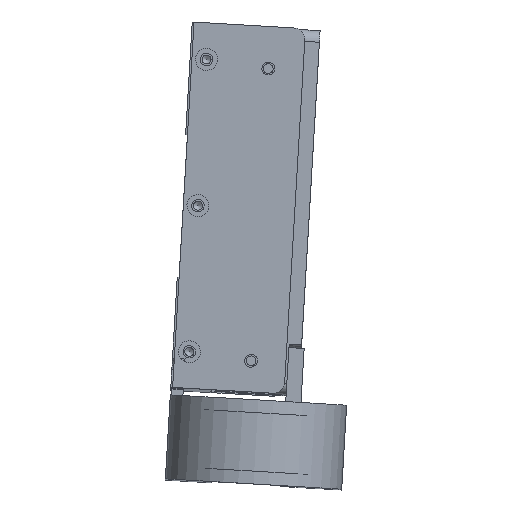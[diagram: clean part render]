
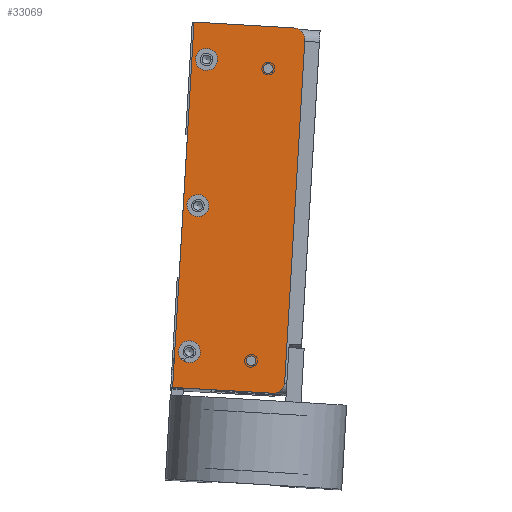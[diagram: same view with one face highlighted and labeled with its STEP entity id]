
A CAD part, top view. The second image highlights one B-rep face of the part: STEP entity #33069.
In plain terms, the highlighted planar face has unit normal (0, 0, 1) as drawn and (0, -1, 0) by its records, which use the part's own axes.
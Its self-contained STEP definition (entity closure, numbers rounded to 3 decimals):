
#1001=PLANE($,#36082);
#2196=FACE_BOUND($,#6015,.T.);
#2197=FACE_BOUND($,#6016,.T.);
#2198=FACE_BOUND($,#6017,.T.);
#2199=FACE_BOUND($,#6018,.T.);
#2200=FACE_BOUND($,#6019,.T.);
#2201=FACE_BOUND($,#6020,.T.);
#6015=EDGE_LOOP($,(#26760));
#6016=EDGE_LOOP($,(#26761));
#6017=EDGE_LOOP($,(#26762));
#6018=EDGE_LOOP($,(#26763));
#6019=EDGE_LOOP($,(#26764));
#6020=EDGE_LOOP($,(#26765,#26766,#26767,#26768,#26769,#26770));
#8421=LINE($,#53275,#11252);
#8424=LINE($,#53291,#11255);
#8425=LINE($,#53293,#11256);
#8426=LINE($,#53295,#11257);
#11252=VECTOR($,#42764,93.65);
#11255=VECTOR($,#42779,27.325);
#11256=VECTOR($,#42780,100.);
#11257=VECTOR($,#42781,27.325);
#14045=CIRCLE($,#36079,3.175);
#14047=CIRCLE($,#36083,3.);
#14048=CIRCLE($,#36084,3.);
#14049=CIRCLE($,#36085,3.);
#14050=CIRCLE($,#36086,1.321);
#14051=CIRCLE($,#36087,1.321);
#14052=CIRCLE($,#36088,3.175);
#16108=VERTEX_POINT($,#53265);
#16109=VERTEX_POINT($,#53266);
#16112=VERTEX_POINT($,#53274);
#16114=VERTEX_POINT($,#53280);
#16115=VERTEX_POINT($,#53282);
#16116=VERTEX_POINT($,#53284);
#16117=VERTEX_POINT($,#53286);
#16118=VERTEX_POINT($,#53288);
#16119=VERTEX_POINT($,#53290);
#16120=VERTEX_POINT($,#53292);
#16121=VERTEX_POINT($,#53294);
#19963=EDGE_CURVE($,#16108,#16109,#14045,.T.);
#19967=EDGE_CURVE($,#16109,#16112,#8421,.T.);
#19970=EDGE_CURVE($,#16114,#16114,#14047,.T.);
#19971=EDGE_CURVE($,#16115,#16115,#14048,.T.);
#19972=EDGE_CURVE($,#16116,#16116,#14049,.T.);
#19973=EDGE_CURVE($,#16117,#16117,#14050,.T.);
#19974=EDGE_CURVE($,#16118,#16118,#14051,.T.);
#19975=EDGE_CURVE($,#16108,#16119,#8424,.T.);
#19976=EDGE_CURVE($,#16119,#16120,#8425,.T.);
#19977=EDGE_CURVE($,#16120,#16121,#8426,.T.);
#19978=EDGE_CURVE($,#16112,#16121,#14052,.T.);
#26760=ORIENTED_EDGE($,*,*,#19970,.T.);
#26761=ORIENTED_EDGE($,*,*,#19971,.T.);
#26762=ORIENTED_EDGE($,*,*,#19972,.T.);
#26763=ORIENTED_EDGE($,*,*,#19973,.T.);
#26764=ORIENTED_EDGE($,*,*,#19974,.T.);
#26765=ORIENTED_EDGE($,*,*,#19963,.F.);
#26766=ORIENTED_EDGE($,*,*,#19975,.T.);
#26767=ORIENTED_EDGE($,*,*,#19976,.T.);
#26768=ORIENTED_EDGE($,*,*,#19977,.T.);
#26769=ORIENTED_EDGE($,*,*,#19978,.F.);
#26770=ORIENTED_EDGE($,*,*,#19967,.F.);
#33069=ADVANCED_FACE($,(#2196,#2197,#2198,#2199,#2200,#2201),#1001,.T.);
#36079=AXIS2_PLACEMENT_3D($,#53267,#42756,#42757);
#36082=AXIS2_PLACEMENT_3D($,#53279,#42767,#42768);
#36083=AXIS2_PLACEMENT_3D($,#53281,#42769,#42770);
#36084=AXIS2_PLACEMENT_3D($,#53283,#42771,#42772);
#36085=AXIS2_PLACEMENT_3D($,#53285,#42773,#42774);
#36086=AXIS2_PLACEMENT_3D($,#53287,#42775,#42776);
#36087=AXIS2_PLACEMENT_3D($,#53289,#42777,#42778);
#36088=AXIS2_PLACEMENT_3D($,#53296,#42782,#42783);
#42756=DIRECTION('center_axis',(0.,1.,0.));
#42757=DIRECTION('ref_axis',(0.707,0.,0.707));
#42764=DIRECTION($,(0.,0.,-1.));
#42767=DIRECTION('center_axis',(0.,-1.,0.));
#42768=DIRECTION('ref_axis',(0.,0.,-1.));
#42769=DIRECTION('center_axis',(0.,1.,0.));
#42770=DIRECTION('ref_axis',(1.,0.,0.));
#42771=DIRECTION('center_axis',(0.,1.,0.));
#42772=DIRECTION('ref_axis',(1.,0.,0.));
#42773=DIRECTION('center_axis',(0.,1.,0.));
#42774=DIRECTION('ref_axis',(1.,0.,0.));
#42775=DIRECTION('center_axis',(0.,1.,0.));
#42776=DIRECTION('ref_axis',(1.,0.,0.));
#42777=DIRECTION('center_axis',(0.,1.,0.));
#42778=DIRECTION('ref_axis',(1.,0.,0.));
#42779=DIRECTION($,(-1.,0.,0.));
#42780=DIRECTION($,(0.,0.,-1.));
#42781=DIRECTION($,(1.,0.,0.));
#42782=DIRECTION('center_axis',(0.,1.,0.));
#42783=DIRECTION('ref_axis',(0.707,0.,-0.707));
#53265=CARTESIAN_POINT('',(12.075,-2.5,50.));
#53266=CARTESIAN_POINT('',(15.25,-2.5,46.825));
#53267=CARTESIAN_POINT('Origin',(12.075,-2.5,46.825));
#53274=CARTESIAN_POINT('',(15.25,-2.5,-46.825));
#53275=CARTESIAN_POINT($,(15.25,-2.5,0.));
#53279=CARTESIAN_POINT('Origin',(15.25,-2.5,0.));
#53280=CARTESIAN_POINT('',(-8.25,-2.5,0.));
#53281=CARTESIAN_POINT('Origin',(-11.25,-2.5,0.));
#53282=CARTESIAN_POINT('',(-8.25,-2.5,40.));
#53283=CARTESIAN_POINT('Origin',(-11.25,-2.5,40.));
#53284=CARTESIAN_POINT('',(-8.25,-2.5,-40.));
#53285=CARTESIAN_POINT('Origin',(-11.25,-2.5,-40.));
#53286=CARTESIAN_POINT('',(7.071,-2.5,38.5));
#53287=CARTESIAN_POINT('Origin',(5.75,-2.5,38.5));
#53288=CARTESIAN_POINT('',(7.037,-2.5,-41.5));
#53289=CARTESIAN_POINT('Origin',(5.716,-2.5,-41.5));
#53290=CARTESIAN_POINT('',(-15.25,-2.5,50.));
#53291=CARTESIAN_POINT($,(15.25,-2.5,50.));
#53292=CARTESIAN_POINT('',(-15.25,-2.5,-50.));
#53293=CARTESIAN_POINT($,(-15.25,-2.5,0.));
#53294=CARTESIAN_POINT('',(12.075,-2.5,-50.));
#53295=CARTESIAN_POINT($,(15.25,-2.5,-50.));
#53296=CARTESIAN_POINT('Origin',(12.075,-2.5,-46.825));
